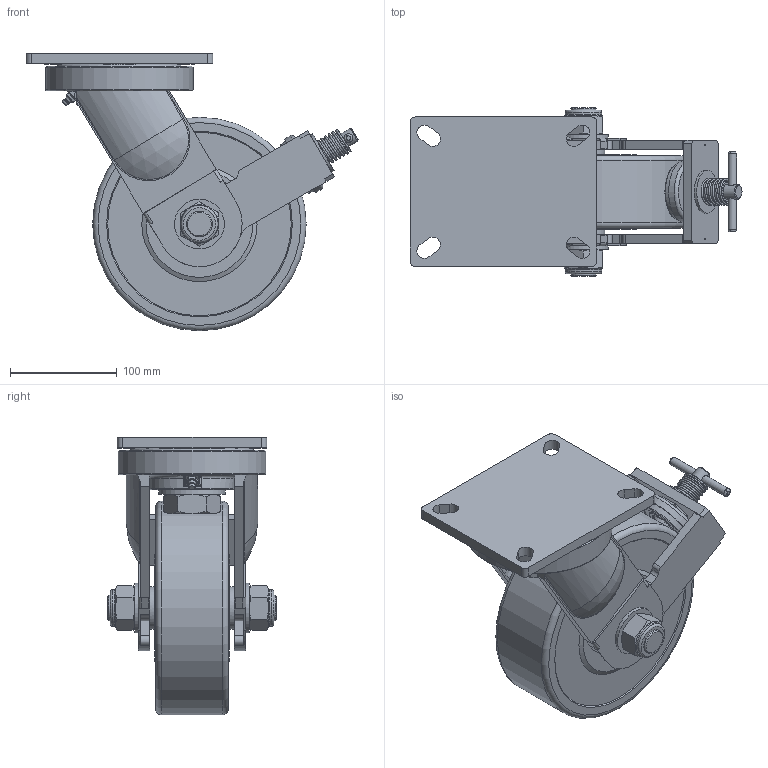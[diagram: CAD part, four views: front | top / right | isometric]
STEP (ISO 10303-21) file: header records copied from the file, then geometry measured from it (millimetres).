
FILE_DESCRIPTION((''),'2;1');
FILE_NAME('C:\Documents and Settings\Administrator\바탕 화면\뜸부기\신제품 진행_GL_GLH_GXT\GXT-200BSF MCD\GXT-200-BSF-MCD.stp','2011-06-23T09:20:10',('Administrator'),(''),'Autodesk Inventor 2009','Autodesk Inventor 2009','');
FILE_SCHEMA(('AUTOMOTIVE_DESIGN { 1 0 10303 214 1 1 1 1 }'));
Length unit declared in the file: millimetre
Products named in the file (1): GXT-200-BSF-MCD
Bounding box: 311.08 x 158 x 260 mm (x, y, z)
Volume: 3216830.6 mm3; surface area: 372954.6 mm2
Topology: 16 solids, 17 shells, 519 faces, 1225 edges, 778 vertices
Faces by surface type: plane 239, cylinder 151, bspline 48, cone 46, torus 31, sphere 4
Full cylindrical faces by diameter (mm): 1 x4, 5 x1, 6 x1, 8 x2, 8.2 x1, 11.7 x1, 12.2 x2, 13 x1, 14 x1, 16.2 x1, 18.2 x1, 20 x1, 21 x2, 22 x2, 23.5 x1, 24 x6, 24.3 x2, 24.5 x2, 26 x2, 27 x1, 30 x6, 30.5 x1, 32 x1, 34.4 x2, 35 x3, 40 x3, 40.667 x4, 42 x1, 46.7 x2, 48.5 x1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
Entity records: 18772 total; most frequent: CARTESIAN_POINT 7659, DIRECTION 2323, ORIENTED_EDGE 2032, EDGE_CURVE 1016, AXIS2_PLACEMENT_3D 933, EDGE_LOOP 778, VERTEX_POINT 737, FACE_OUTER_BOUND 519
